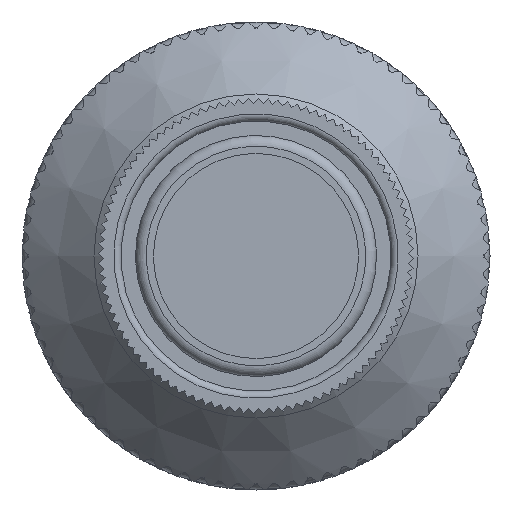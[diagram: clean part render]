
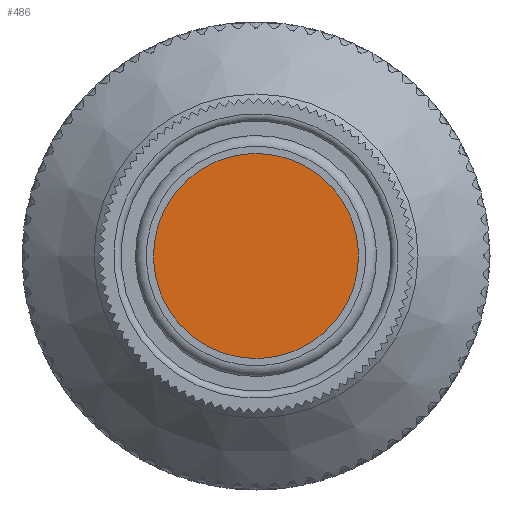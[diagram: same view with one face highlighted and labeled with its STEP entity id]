
A CAD part, front view. The second image highlights one B-rep face of the part: STEP entity #486.
In plain terms, the highlighted planar face has unit normal (0, -1, 0).
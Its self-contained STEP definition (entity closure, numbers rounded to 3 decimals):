
#463=CARTESIAN_POINT('',(2.848,-23.7,0.116));
#464=VERTEX_POINT('',#463);
#465=CARTESIAN_POINT('',(0.,-23.7,0.));
#466=DIRECTION('',(0.,-1.0,0.));
#467=DIRECTION('',(0.999,0.,0.041));
#468=AXIS2_PLACEMENT_3D('',#465,#466,#467);
#469=CIRCLE('',#468,2.85);
#470=EDGE_CURVE('',#464,#464,#469,.T.);
#478=CARTESIAN_POINT('',(1.424,-23.7,0.058));
#479=DIRECTION('',(0.0,-1.0,0.0));
#480=DIRECTION('',(0.041,0.0,-0.999));
#481=AXIS2_PLACEMENT_3D('',#478,#479,#480);
#482=PLANE('',#481);
#483=ORIENTED_EDGE('',*,*,#470,.T.);
#484=EDGE_LOOP('',(#483));
#485=FACE_OUTER_BOUND('',#484,.T.);
#486=ADVANCED_FACE('',(#485),#482,.T.);
